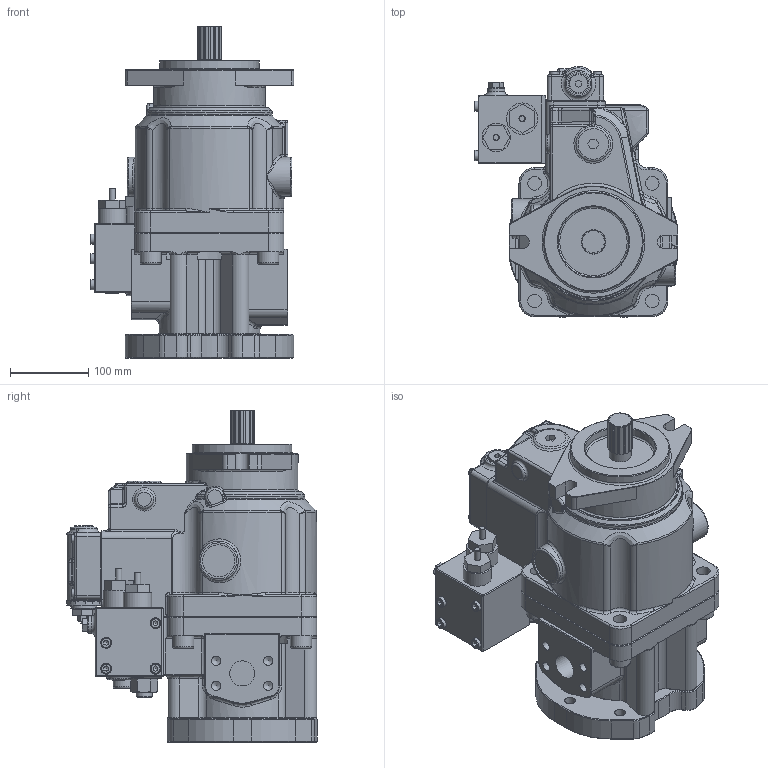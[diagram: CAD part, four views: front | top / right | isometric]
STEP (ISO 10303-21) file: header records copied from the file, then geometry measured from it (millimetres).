
FILE_DESCRIPTION((''),'2;1');
FILE_NAME('I:\3D Step files\Approved for WEB\K3V\K3VL112B 1CRCM P0 1-H.stp','2011-12-22T09:54:06',('mnorman'),(''),'Autodesk Inventor 2012','Autodesk Inventor 2012','');
FILE_SCHEMA(('AUTOMOTIVE_DESIGN { 1 0 10303 214 1 1 1 1 }'));
Length unit declared in the file: millimetre
Products named in the file (1): Part13
Bounding box: 259.5 x 319.87 x 423.42 mm (x, y, z)
Volume: 10790101.9 mm3; surface area: 787100.9 mm2
Topology: 1 solids, 33 shells, 1569 faces, 3656 edges, 2189 vertices
Faces by surface type: plane 655, cylinder 394, cone 214, bspline 171, torus 110, sphere 25
Full cylindrical faces by diameter (mm): 4.917 x4, 6 x4, 6.6 x4, 6.647 x6, 8 x8, 9 x4, 10 x4, 10.106 x8, 11 x6, 11.835 x4, 12 x4, 13 x4, 13.5 x4, 13.835 x6, 14 x4, 16 x2, 17.294 x5, 18 x4, 19.177 x1, 20 x6, 22 x5, 24 x2, 26 x1, 27 x5, 28 x1, 30 x1, 32 x6, 33 x2, 36 x1, 40 x1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
Entity records: 51725 total; most frequent: CARTESIAN_POINT 16872, DIRECTION 6875, ORIENTED_EDGE 6612, EDGE_CURVE 3306, AXIS2_PLACEMENT_3D 2697, VERTEX_POINT 2096, EDGE_LOOP 1906, STYLED_ITEM 1571
